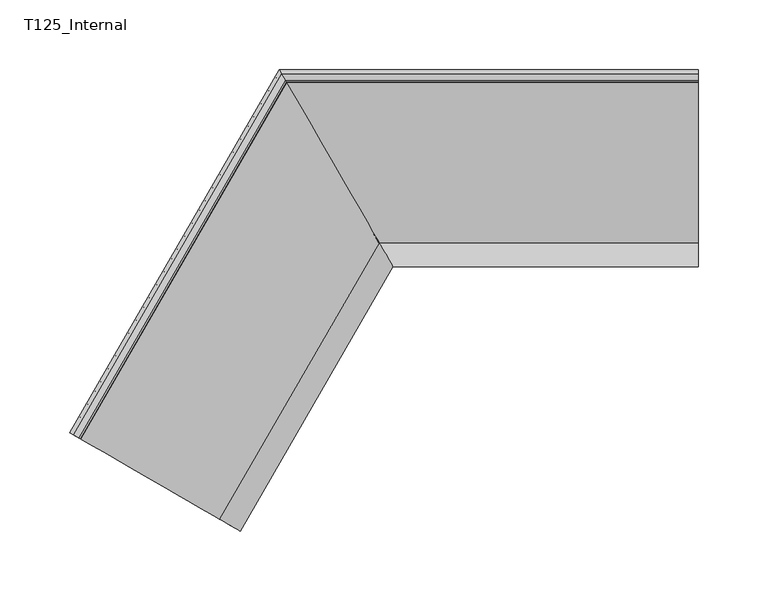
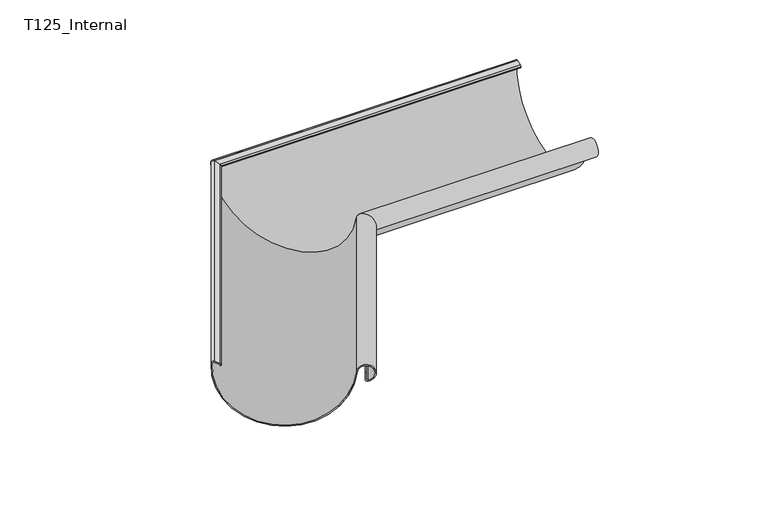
"""IFC4 building model written with IfcOpenShell, lengths in millimetres: proxy geometry, GROVIK_Gutter_Corner_Custom : T125_Internal."""

from ifc_helpers import new_model, si_unit, frame, origin, place, context, project, spatial, polyline, circle_curve, ellipse_curve, source, transform, mapped, element, save
from ifc_brep_helpers import plane_surface, cylinder_surface, revolved_surface, advanced_brep


def t125_internal_a0992411(model_context):
    return source(origin(), model_context, "Body", "AdvancedBrep", [
        advanced_brep(
        [(-142.0514419, -264.3967233, -4.0843749), (-142.3053615, -264.2501228, -3.1253573), (-143.3693336, -263.6358382, -1.8307155), (-147.438322, -261.2866066, -0.1206148), (-149.7627691, -259.9445865, -2.0), (-41.7801311, -322.2883916, -11.2897939), (-34.233994, -326.6451559, -19.5609673), (-35.2312354, -326.0693983, -18.572593), (-35.2312354, -326.0693983, -12.0487098), (-36.0972608, -325.5693983, -12.0487098), (-36.0972608, -325.5693983, -18.572593), (-34.102709, -326.7209533, -20.54941), (-42.6418209, -321.7908947, -11.1898563), (-148.8965662, -260.4446889, -2.0202437), (-147.7345202, -261.1155965, -1.0603074), (-143.6655318, -263.4648281, -2.7704081), (-143.1335457, -263.7719704, -3.417729), (-142.8796261, -263.9185709, -4.3767466), (4.7757835, -8.1718996, -4.3767466), (5.3279063, -9.1282044, -4.0843749), (4.6065037, -7.8786985, -3.417729), (4.2518463, -7.2644139, -2.7704081), (1.5391874, -2.5659508, -1.0603074), (0.76449, -1.2241356, -2.0202437), (71.6009869, -123.9165472, -11.1898563), (77.2937282, -133.7766643, -20.54941), (75.964027, -131.4735543, -18.572593), (75.964027, -131.4735543, -12.0487098), (76.5413773, -132.4735543, -12.0487098), (76.5413773, -132.4735543, -18.572593), (77.2062048, -133.6250695, -19.5609673), (72.1754468, -124.9115409, -11.2897939), (0.1870214, -0.2239306, -2.0), (1.7366528, -2.9079709, -0.1206148), (4.4493118, -7.606434, -1.8307155), (5.1586265, -8.8350033, -3.1253573)],
        [
            (0, 1),
            (1, 2, circle_curve(frame((-143.9617299, -263.293818, -3.7101007), z_axis=(-0.4999999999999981, -0.8660254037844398, 0.0), x_axis=(0.8660254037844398, -0.4999999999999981, 0.0)), 2.0)),
            (2, 3),
            (3, 4, circle_curve(frame((-148.0307183, -260.9445865, -2.0), z_axis=(-0.4999999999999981, -0.8660254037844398, 0.0), x_axis=(0.8660254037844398, -0.4999999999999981, 0.0)), 2.0)),
            (4, 5, circle_curve(frame((-95.6678953, -291.1762764, -5.0399641), z_axis=(-0.4999999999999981, -0.8660254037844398, 0.0), x_axis=(0.8660254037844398, -0.4999999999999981, 0.0)), 62.5373106)),
            (5, 6, circle_curve(frame((-35.2316978, -326.0691313, -12.0492723), z_axis=(0.4999999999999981, 0.8660254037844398, 0.0), x_axis=(0.8660254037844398, -0.4999999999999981, 0.0)), 7.5995249)),
            (6, 7, circle_curve(frame((-34.3652699, -326.5693637, -18.572593), z_axis=(0.4999999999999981, 0.8660254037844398, 0.0), x_axis=(0.8660254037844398, -0.4999999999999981, 0.0)), 0.9999308)),
            (7, 8),
            (8, 9),
            (9, 10),
            (10, 11, circle_curve(frame((-34.3652699, -326.5693637, -18.572593), z_axis=(-0.4999999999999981, -0.8660254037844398, 0.0), x_axis=(0.8660254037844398, -0.4999999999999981, 0.0)), 1.9999308)),
            (11, 12, circle_curve(frame((-35.2316978, -326.0691313, -12.0492723), z_axis=(-0.4999999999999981, -0.8660254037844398, 0.0), x_axis=(0.8660254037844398, -0.4999999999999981, 0.0)), 8.5995249)),
            (12, 13, circle_curve(frame((-95.6678953, -291.1762764, -5.0399641), z_axis=(0.4999999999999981, 0.8660254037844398, 0.0), x_axis=(0.8660254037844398, -0.4999999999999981, 0.0)), 61.5373106)),
            (13, 14, circle_curve(frame((-148.0307183, -260.9445865, -2.0), z_axis=(0.4999999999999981, 0.8660254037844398, 0.0), x_axis=(0.8660254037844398, -0.4999999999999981, 0.0)), 1.0)),
            (14, 15),
            (15, 16, circle_curve(frame((-143.9617299, -263.293818, -3.7101007), z_axis=(0.4999999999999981, 0.8660254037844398, 0.0), x_axis=(0.8660254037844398, -0.4999999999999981, 0.0)), 1.0)),
            (16, 17),
            (17, 0),
            (17, 18),
            (18, 19),
            (19, 0),
            (16, 20),
            (20, 18),
            (15, 21),
            (21, 20, ellipse_curve(frame((4.0543809, -6.9223938, -3.7101007), z_axis=(0.8660254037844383, 0.5000000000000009, 0.0), x_axis=(-0.5000000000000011, 0.866025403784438, 0.0)), 1.1547005, 1.0)),
            (14, 22),
            (22, 21),
            (13, 23),
            (23, 22, ellipse_curve(frame((1.341722, -2.2239306, -2.0), z_axis=(0.8660254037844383, 0.5000000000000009, 0.0), x_axis=(-0.5000000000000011, 0.866025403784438, 0.0)), 1.1547005, 1.0)),
            (12, 24),
            (24, 23, ellipse_curve(frame((36.2502707, -62.6873106, -5.0399641), z_axis=(0.8660254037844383, 0.5000000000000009, 0.0), x_axis=(-0.5000000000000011, 0.866025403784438, 0.0)), 71.0571656, 61.5373106)),
            (11, 25),
            (25, 24, ellipse_curve(frame((76.541069, -132.4730203, -12.0492723), z_axis=(-0.8660254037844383, -0.5000000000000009, 0.0), x_axis=(0.5000000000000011, -0.866025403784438, 0.0)), 9.929876, 8.5995249)),
            (10, 26),
            (26, 25, ellipse_curve(frame((77.1186876, -133.4734851, -18.572593), z_axis=(-0.8660254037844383, -0.5000000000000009, 0.0), x_axis=(0.5000000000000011, -0.866025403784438, 0.0)), 2.3093211, 1.9999308)),
            (9, 27),
            (27, 26),
            (8, 28),
            (28, 27),
            (7, 29),
            (29, 28),
            (6, 30),
            (30, 29, ellipse_curve(frame((77.1186876, -133.4734851, -18.572593), z_axis=(0.8660254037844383, 0.5000000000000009, 0.0), x_axis=(-0.5000000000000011, 0.866025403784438, 0.0)), 1.1546206, 0.9999308)),
            (5, 31),
            (31, 30, ellipse_curve(frame((76.541069, -132.4730203, -12.0492723), z_axis=(0.8660254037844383, 0.5000000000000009, 0.0), x_axis=(-0.5000000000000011, 0.866025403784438, 0.0)), 8.7751754, 7.5995249)),
            (4, 32),
            (32, 31, ellipse_curve(frame((36.2502707, -62.6873106, -5.0399641), z_axis=(-0.8660254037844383, -0.5000000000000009, 0.0), x_axis=(0.5000000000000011, -0.866025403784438, 0.0)), 72.2118662, 62.5373106)),
            (3, 33),
            (33, 32, ellipse_curve(frame((1.341722, -2.2239306, -2.0), z_axis=(-0.8660254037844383, -0.5000000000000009, 0.0), x_axis=(0.5000000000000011, -0.866025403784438, 0.0)), 2.3094011, 2.0)),
            (2, 34),
            (34, 33),
            (1, 35),
            (35, 34, ellipse_curve(frame((4.0543809, -6.9223938, -3.7101007), z_axis=(-0.8660254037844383, -0.5000000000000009, 0.0), x_axis=(0.5000000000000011, -0.866025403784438, 0.0)), 2.3094011, 2.0)),
            (19, 35),
        ],
        [
            plane_surface(frame((-149.8267949, -259.9076211, 0.0), z_axis=(-0.4999999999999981, -0.8660254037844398, 0.0), x_axis=(0.0, 0.0, 1.0))),
            plane_surface(frame((-142.0514419, -264.3967233, -4.0843749), z_axis=(0.25320132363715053, -0.14618585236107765, -0.9563047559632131), x_axis=(0.4999999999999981, 0.8660254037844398, 0.0))),
            plane_surface(frame((-142.8796261, -263.9185709, -4.3767466), z_axis=(-0.8281842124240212, 0.47815237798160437, -0.29237170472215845), x_axis=(0.4999999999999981, 0.8660254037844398, 0.0))),
            revolved_surface(polyline([(5.209081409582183, -6.922393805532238, -3.7101007), (-143.0957045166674, -263.7938180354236, -3.7101007)]), (-143.9617299, -263.293818, -3.7101007), (0.4999999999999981, 0.8660254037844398, 0.0)),
            plane_surface(frame((-143.6655318, -263.4648281, -2.7704081), z_axis=(-0.29619813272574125, 0.17101007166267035, -0.9396926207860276), x_axis=(0.4999999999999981, 0.8660254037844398, 0.0))),
            revolved_surface(polyline([(2.496422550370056, -2.22393062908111, -2.0), (-147.16469289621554, -261.4445865, -2.0)]), (-148.0307183, -260.9445865, -2.0), (0.4999999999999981, 0.8660254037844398, 0.0)),
            revolved_surface(polyline([(107.30743629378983, -62.68731059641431, -5.0399641), (-42.375021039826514, -321.94493169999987, -5.0399641)]), (-95.6678953, -291.1762764, -5.0399641), (0.4999999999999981, 0.8660254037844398, 0.0)),
            cylinder_surface(frame((-35.2316978, -326.0691313, -12.0492723), z_axis=(-0.4999999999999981, -0.8660254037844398, 0.0), x_axis=(0.8660254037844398, -0.4999999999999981, 0.0)), 8.5995249),
            cylinder_surface(frame((-34.3652699, -326.5693637, -18.572593), z_axis=(-0.4999999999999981, -0.8660254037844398, 0.0), x_axis=(0.8660254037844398, -0.4999999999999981, 0.0)), 1.9999308),
            plane_surface(frame((-36.0972608, -325.5693983, -18.572593), z_axis=(-0.8660254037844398, 0.4999999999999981, 0.0), x_axis=(0.4999999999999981, 0.8660254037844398, 0.0))),
            plane_surface(frame((-36.0972608, -325.5693983, -12.0487098), z_axis=(0.0, 0.0, 1.0), x_axis=(0.4999999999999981, 0.8660254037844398, 0.0))),
            plane_surface(frame((-35.2312354, -326.0693983, -12.0487098), z_axis=(0.8660254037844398, -0.4999999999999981, 0.0), x_axis=(0.4999999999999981, 0.8660254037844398, 0.0))),
            revolved_surface(polyline([(78.27330822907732, -133.47348508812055, -18.572593), (-33.499304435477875, -327.0693291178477, -18.572593)]), (-34.3652699, -326.5693637, -18.572593), (0.4999999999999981, 0.8660254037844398, 0.0)),
            revolved_surface(polyline([(85.31624447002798, -132.47302034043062, -12.0492723), (-28.650316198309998, -329.8688937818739, -12.0492723)]), (-35.2316978, -326.0691313, -12.0492723), (0.4999999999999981, 0.8660254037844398, 0.0)),
            cylinder_surface(frame((-95.6678953, -291.1762764, -5.0399641), z_axis=(-0.4999999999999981, -0.8660254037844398, 0.0), x_axis=(0.8660254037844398, -0.4999999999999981, 0.0)), 62.5373106),
            cylinder_surface(frame((-148.0307183, -260.9445865, -2.0), z_axis=(-0.4999999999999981, -0.8660254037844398, 0.0), x_axis=(0.8660254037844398, -0.4999999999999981, 0.0)), 2.0),
            plane_surface(frame((-147.438322, -261.2866066, -0.1206148), z_axis=(0.2961981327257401, -0.17101007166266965, 0.939692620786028), x_axis=(0.4999999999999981, 0.8660254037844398, 0.0))),
            cylinder_surface(frame((-143.9617299, -263.293818, -3.7101007), z_axis=(-0.4999999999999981, -0.8660254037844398, 0.0), x_axis=(0.8660254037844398, -0.4999999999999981, 0.0)), 2.0),
            plane_surface(frame((-142.3053615, -264.2501228, -3.1253573), z_axis=(0.8281842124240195, -0.4781523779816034, 0.29237170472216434), x_axis=(0.4999999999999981, 0.8660254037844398, 0.0))),
            plane_surface(frame((81.5507255, -141.15, 250.0), z_axis=(0.8660254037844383, 0.5000000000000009, 0.0), x_axis=(0.0, 0.0, -1.0))),
        ],
        [
            (0, [[1, 2, 3, 4, 5, 6, 7, 8, 9, 10, 11, 12, 13, 14, 15, 16, 17, 18]]),
            (1, [[19, 20, 21, -18]]),
            (2, [[22, 23, -19, -17]]),
            (3, [[24, 25, -22, -16]]),
            (4, [[26, 27, -24, -15]]),
            (5, [[28, 29, -26, -14]]),
            (6, [[30, 31, -28, -13]]),
            (7, [[32, 33, -30, -12]]),
            (8, [[34, 35, -32, -11]]),
            (9, [[36, 37, -34, -10]]),
            (10, [[38, 39, -36, -9]]),
            (11, [[40, 41, -38, -8]]),
            (12, [[42, 43, -40, -7]]),
            (13, [[44, 45, -42, -6]]),
            (14, [[46, 47, -44, -5]]),
            (15, [[48, 49, -46, -4]]),
            (16, [[50, 51, -48, -3]]),
            (17, [[52, 53, -50, -2]]),
            (18, [[-21, 54, -52, -1]]),
            (19, [[-23, -25, -27, -29, -31, -33, -35, -37, -39, -41, -43, -45, -47, -49, -51, -53, -54, -20]]),
        ],
    ),
        advanced_brep(
        [(300.0, -9.1782044, -4.0843749), (300.0, -8.2218996, -4.3767466), (300.0, -7.9286985, -3.417729), (300.0, -7.3144139, -2.7704081), (300.0, -2.6159508, -1.0603074), (300.0, -1.2741356, -2.0202437), (300.0, -123.9665472, -11.1898563), (300.0, -133.8266643, -20.54941), (300.0, -131.5235543, -18.572593), (300.0, -131.5235543, -12.0487098), (300.0, -132.5235543, -12.0487098), (300.0, -132.5235543, -18.572593), (300.0, -133.6750695, -19.5609673), (300.0, -124.9615409, -11.2897939), (300.0, -0.2739306, -2.0), (300.0, -2.9579709, -0.1206148), (300.0, -7.656434, -1.8307155), (300.0, -8.8850033, -3.1253573), (5.2413037, -9.1782044, -4.0843749), (4.6891809, -8.2218996, -4.3767466), (4.5199012, -7.9286985, -3.417729), (4.1652438, -7.3144139, -2.7704081), (1.4525849, -2.6159508, -1.0603074), (0.6778875, -1.2741356, -2.0202437), (71.5143844, -123.9665472, -11.1898563), (77.2071257, -133.8266643, -20.54941), (75.8774245, -131.5235543, -18.572593), (75.8774245, -131.5235543, -12.0487098), (76.4547747, -132.5235543, -12.0487098), (76.4547747, -132.5235543, -18.572593), (77.1196023, -133.6750695, -19.5609673), (72.0888442, -124.9615409, -11.2897939), (0.1004189, -0.2739306, -2.0), (1.6500503, -2.9579709, -0.1206148), (4.3627092, -7.656434, -1.8307155), (5.072024, -8.8850033, -3.1253573)],
        [
            (0, 1),
            (1, 2),
            (2, 3, circle_curve(frame((300.0, -6.9723938, -3.7101007), z_axis=(-1.0, 0.0, 0.0), x_axis=(0.0, -1.0, 0.0)), 1.0)),
            (3, 4),
            (4, 5, circle_curve(frame((300.0, -2.2739306, -2.0), z_axis=(-1.0, 0.0, 0.0), x_axis=(0.0, -1.0, 0.0)), 1.0)),
            (5, 6, circle_curve(frame((300.0, -62.7373106, -5.0399641), z_axis=(-1.0, 0.0, 0.0), x_axis=(0.0, -1.0, 0.0)), 61.5373106)),
            (6, 7, circle_curve(frame((300.0, -132.5230203, -12.0492723), z_axis=(1.0, 0.0, 0.0), x_axis=(0.0, -1.0, 0.0)), 8.5995249)),
            (7, 8, circle_curve(frame((300.0, -133.5234851, -18.572593), z_axis=(1.0, 0.0, 0.0), x_axis=(0.0, -1.0, 0.0)), 1.9999308)),
            (8, 9),
            (9, 10),
            (10, 11),
            (11, 12, circle_curve(frame((300.0, -133.5234851, -18.572593), z_axis=(-1.0, 0.0, 0.0), x_axis=(0.0, -1.0, 0.0)), 0.9999308)),
            (12, 13, circle_curve(frame((300.0, -132.5230203, -12.0492723), z_axis=(-1.0, 0.0, 0.0), x_axis=(0.0, -1.0, 0.0)), 7.5995249)),
            (13, 14, circle_curve(frame((300.0, -62.7373106, -5.0399641), z_axis=(1.0, 0.0, 0.0), x_axis=(0.0, -1.0, 0.0)), 62.5373106)),
            (14, 15, circle_curve(frame((300.0, -2.2739306, -2.0), z_axis=(1.0, 0.0, 0.0), x_axis=(0.0, -1.0, 0.0)), 2.0)),
            (15, 16),
            (16, 17, circle_curve(frame((300.0, -6.9723938, -3.7101007), z_axis=(1.0, 0.0, 0.0), x_axis=(0.0, -1.0, 0.0)), 2.0)),
            (17, 0),
            (0, 18),
            (18, 19),
            (19, 1),
            (19, 20),
            (20, 2),
            (20, 21, ellipse_curve(frame((3.9677784, -6.9723938, -3.7101007), z_axis=(-0.8660254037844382, -0.5000000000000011, 0.0), x_axis=(-0.5000000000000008, 0.8660254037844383, 0.0)), 1.1547005, 1.0)),
            (21, 3),
            (21, 22),
            (22, 4),
            (22, 23, ellipse_curve(frame((1.2551194, -2.2739306, -2.0), z_axis=(-0.8660254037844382, -0.5000000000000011, 0.0), x_axis=(-0.5000000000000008, 0.8660254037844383, 0.0)), 1.1547005, 1.0)),
            (23, 5),
            (23, 24, ellipse_curve(frame((36.1636681, -62.7373106, -5.0399641), z_axis=(-0.8660254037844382, -0.5000000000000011, 0.0), x_axis=(-0.5000000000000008, 0.8660254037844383, 0.0)), 71.0571656, 61.5373106)),
            (24, 6),
            (24, 25, ellipse_curve(frame((76.4544664, -132.5230203, -12.0492723), z_axis=(0.8660254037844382, 0.5000000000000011, 0.0), x_axis=(0.5000000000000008, -0.8660254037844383, 0.0)), 9.929876, 8.5995249)),
            (25, 7),
            (25, 26, ellipse_curve(frame((77.032085, -133.5234851, -18.572593), z_axis=(0.8660254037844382, 0.5000000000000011, 0.0), x_axis=(0.5000000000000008, -0.8660254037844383, 0.0)), 2.3093211, 1.9999308)),
            (26, 8),
            (26, 27),
            (27, 9),
            (27, 28),
            (28, 10),
            (28, 29),
            (29, 11),
            (29, 30, ellipse_curve(frame((77.032085, -133.5234851, -18.572593), z_axis=(-0.8660254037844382, -0.5000000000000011, 0.0), x_axis=(-0.5000000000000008, 0.8660254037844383, 0.0)), 1.1546206, 0.9999308)),
            (30, 12),
            (30, 31, ellipse_curve(frame((76.4544664, -132.5230203, -12.0492723), z_axis=(-0.8660254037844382, -0.5000000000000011, 0.0), x_axis=(-0.5000000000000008, 0.8660254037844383, 0.0)), 8.7751754, 7.5995249)),
            (31, 13),
            (31, 32, ellipse_curve(frame((36.1636681, -62.7373106, -5.0399641), z_axis=(0.8660254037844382, 0.5000000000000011, 0.0), x_axis=(0.5000000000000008, -0.8660254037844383, 0.0)), 72.2118662, 62.5373106)),
            (32, 14),
            (32, 33, ellipse_curve(frame((1.2551194, -2.2739306, -2.0), z_axis=(0.8660254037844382, 0.5000000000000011, 0.0), x_axis=(0.5000000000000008, -0.8660254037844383, 0.0)), 2.3094011, 2.0)),
            (33, 15),
            (33, 34),
            (34, 16),
            (34, 35, ellipse_curve(frame((3.9677784, -6.9723938, -3.7101007), z_axis=(0.8660254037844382, 0.5000000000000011, 0.0), x_axis=(0.5000000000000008, -0.8660254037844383, 0.0)), 2.3094011, 2.0)),
            (35, 17),
            (35, 18),
        ],
        [
            plane_surface(frame((300.0, -0.2, 0.0), z_axis=(1.0, 0.0, 0.0), x_axis=(0.0, 0.0, 1.0))),
            plane_surface(frame((300.0, -9.1782044, -4.0843749), z_axis=(0.0, -0.2923717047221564, -0.956304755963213), x_axis=(-1.0, 0.0, 0.0))),
            plane_surface(frame((300.0, -8.2218996, -4.3767466), z_axis=(0.0, 0.9563047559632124, -0.2923717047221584), x_axis=(-1.0, 0.0, 0.0))),
            revolved_surface(polyline([(3.390428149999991, -7.9723938, -3.7101007), (300.0, -7.9723938, -3.7101007)]), (300.0, -6.9723938, -3.7101007), (-1.0, 0.0, 0.0)),
            plane_surface(frame((300.0, -7.3144139, -2.7704081), z_axis=(0.0, 0.342020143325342, -0.9396926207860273), x_axis=(-1.0, 0.0, 0.0))),
            revolved_surface(polyline([(0.6777691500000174, -3.2739306, -2.0), (300.0, -3.2739306, -2.0)]), (300.0, -2.2739306, -2.0), (-1.0, 0.0, 0.0)),
            revolved_surface(polyline([(0.6350852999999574, -124.2746212, -5.0399641), (300.0, -124.2746212, -5.0399641)]), (300.0, -62.7373106, -5.0399641), (-1.0, 0.0, 0.0)),
            cylinder_surface(frame((300.0, -132.5230203, -12.0492723), z_axis=(1.0, 0.0, 0.0), x_axis=(0.0, -1.0, 0.0)), 8.5995249),
            cylinder_surface(frame((300.0, -133.5234851, -18.572593), z_axis=(1.0, 0.0, 0.0), x_axis=(0.0, -1.0, 0.0)), 1.9999308),
            plane_surface(frame((300.0, -131.5235543, -18.572593), z_axis=(0.0, 1.0, 0.0), x_axis=(-1.0, 0.0, 0.0))),
            plane_surface(frame((300.0, -131.5235543, -12.0487098), z_axis=(0.0, 0.0, 1.0), x_axis=(-1.0, 0.0, 0.0))),
            plane_surface(frame((300.0, -132.5235543, -12.0487098), z_axis=(0.0, -1.0, 0.0), x_axis=(-1.0, 0.0, 0.0))),
            revolved_surface(polyline([(76.4547747, -134.52341589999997, -18.572593), (300.0, -134.52341589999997, -18.572593)]), (300.0, -133.5234851, -18.572593), (-1.0, 0.0, 0.0)),
            revolved_surface(polyline([(72.06687869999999, -140.12254520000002, -12.0492723), (300.0, -140.12254520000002, -12.0492723)]), (300.0, -132.5230203, -12.0492723), (-1.0, 0.0, 0.0)),
            cylinder_surface(frame((300.0, -62.7373106, -5.0399641), z_axis=(1.0, 0.0, 0.0), x_axis=(0.0, -1.0, 0.0)), 62.5373106),
            cylinder_surface(frame((300.0, -2.2739306, -2.0), z_axis=(1.0, 0.0, 0.0), x_axis=(0.0, -1.0, 0.0)), 2.0),
            plane_surface(frame((300.0, -2.9579709, -0.1206148), z_axis=(0.0, -0.3420201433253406, 0.9396926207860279), x_axis=(-1.0, 0.0, 0.0))),
            cylinder_surface(frame((300.0, -6.9723938, -3.7101007), z_axis=(1.0, 0.0, 0.0), x_axis=(0.0, -1.0, 0.0)), 2.0),
            plane_surface(frame((300.0, -8.8850033, -3.1253573), z_axis=(0.0, -0.9563047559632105, 0.29237170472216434), x_axis=(-1.0, 0.0, 0.0))),
            plane_surface(frame((81.464123, -141.2, 250.0), z_axis=(-0.8660254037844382, -0.5000000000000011, 0.0), x_axis=(0.0, 0.0, -1.0))),
        ],
        [
            (0, [[1, 2, 3, 4, 5, 6, 7, 8, 9, 10, 11, 12, 13, 14, 15, 16, 17, 18]]),
            (1, [[-1, 19, 20, 21]]),
            (2, [[-2, -21, 22, 23]]),
            (3, [[-3, -23, 24, 25]]),
            (4, [[-4, -25, 26, 27]]),
            (5, [[-5, -27, 28, 29]]),
            (6, [[-6, -29, 30, 31]]),
            (7, [[-7, -31, 32, 33]]),
            (8, [[-8, -33, 34, 35]]),
            (9, [[-9, -35, 36, 37]]),
            (10, [[-10, -37, 38, 39]]),
            (11, [[-11, -39, 40, 41]]),
            (12, [[-12, -41, 42, 43]]),
            (13, [[-13, -43, 44, 45]]),
            (14, [[-14, -45, 46, 47]]),
            (15, [[-15, -47, 48, 49]]),
            (16, [[-16, -49, 50, 51]]),
            (17, [[-17, -51, 52, 53]]),
            (18, [[-18, -53, 54, -19]]),
            (19, [[-20, -54, -52, -50, -48, -46, -44, -42, -40, -38, -36, -34, -32, -30, -28, -26, -24, -22]]),
        ],
    ),
    ])


if __name__ == "__main__":
    model = new_model("IFC4")
    model_context = context("Model", 3, world=origin())
    ifc_project = project(units=[si_unit("LENGTHUNIT", "METRE", prefix="MILLI")], contexts=[model_context])
    site = spatial("IfcSite", under=ifc_project)
    building = spatial("IfcBuilding", under=site)
    placement = place(None, origin())
    t125_internal_shape = t125_internal_a0992411(model_context)
    element("IfcBuildingElementProxy", 1, Name="GROVIK_Gutter_Corner_Custom : T125_Internal", ObjectType="GROVIK_Gutter_Corner_Custom : T125_Internal", at=placement, inside=building, context=model_context, shape_type="MappedRepresentation", body=[
        mapped(t125_internal_shape, transform((0.0, 0.0, 0.0), x_axis=(1.0, 0.0, 0.0), y_axis=(0.0, 1.0, 0.0), z_axis=(0.0, 0.0, 1.0))),
    ])
    save(model, "model.ifc")
